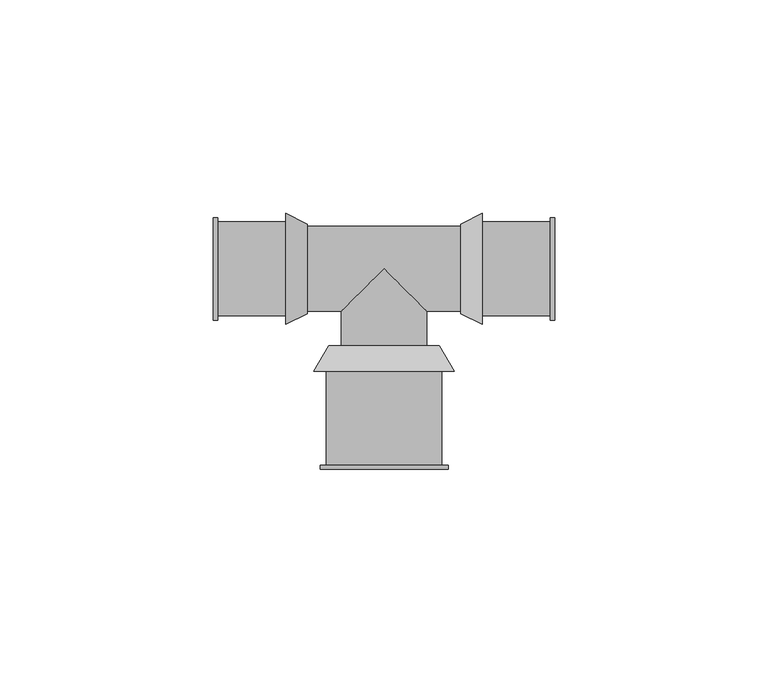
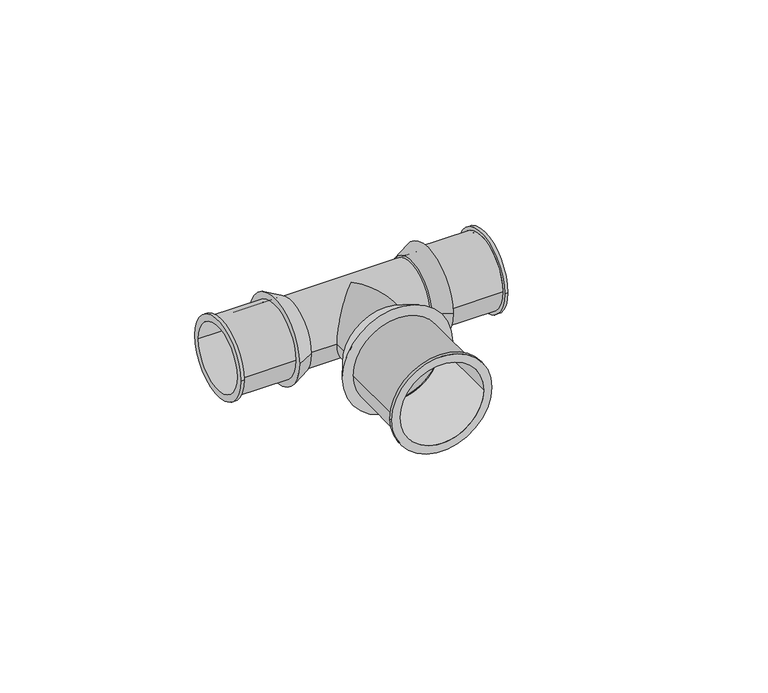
"""IFC4 building model written with IfcOpenShell, lengths in millimetres: pipe fitting geometry, SuperPipe_Tee_SPressPlus : SuperPipe_Tee_SPressPlus."""

from ifc_helpers import new_model, si_unit, point, frame, origin, origin_2d, place, context, project, spatial, polyline, circle_curve, ellipse_curve, trimmed, segment, composite_curve, outline, extrude, source, transform, mapped, element, save
from ifc_brep_helpers import plane_surface, cylinder_surface, revolved_surface, advanced_brep


def pipe_fitting_febb8c26(model_context):
    return source(origin(), model_context, "Body", "SolidModel", [
        advanced_brep(
        [(-40.0, -12.0, 0.0), (-40.0, 12.0, 0.0), (-40.0, -10.0, 0.0), (-40.0, 10.0, 0.0), (-23.0, -11.0, 0.0), (-23.0, 11.0, 0.0), (-23.0, -10.0, 0.0), (-23.0, 10.0, 0.0), (-39.0, -10.0, 0.0), (-39.0, 10.0, 0.0), (-39.0, 11.0, 0.0), (-39.0, -11.0, 0.0), (-39.0, -12.0, 0.0), (-39.0, 12.0, 0.0)],
        [
            (0, 1, circle_curve(frame((-40.0, 0.0, 0.0), z_axis=(-1.0, 0.0, 0.0), x_axis=(0.0, 1.0, 0.0)), 12.0)),
            (1, 0, circle_curve(frame((-40.0, 0.0, 0.0), z_axis=(-1.0, 0.0, 0.0), x_axis=(0.0, 1.0, 0.0)), 12.0)),
            (2, 3, circle_curve(frame((-40.0, 0.0, 0.0), z_axis=(1.0, 0.0, 0.0), x_axis=(0.0, 1.0, 0.0)), 10.0)),
            (3, 2, circle_curve(frame((-40.0, 0.0, 0.0), z_axis=(1.0, 0.0, 0.0), x_axis=(0.0, 1.0, 0.0)), 10.0)),
            (4, 5, circle_curve(frame((-23.0, 0.0, 0.0), z_axis=(1.0, 0.0, 0.0), x_axis=(0.0, 1.0, 0.0)), 11.0)),
            (5, 4, circle_curve(frame((-23.0, 0.0, 0.0), z_axis=(1.0, 0.0, 0.0), x_axis=(0.0, 1.0, 0.0)), 11.0)),
            (6, 7, circle_curve(frame((-23.0, 0.0, 0.0), z_axis=(-1.0, 0.0, 0.0), x_axis=(0.0, 1.0, 0.0)), 10.0)),
            (7, 6, circle_curve(frame((-23.0, 0.0, 0.0), z_axis=(-1.0, 0.0, 0.0), x_axis=(0.0, 1.0, 0.0)), 10.0)),
            (2, 8),
            (8, 6),
            (7, 9),
            (9, 3),
            (5, 10),
            (10, 11, circle_curve(frame((-39.0, 0.0, 0.0), z_axis=(1.0, 0.0, 0.0), x_axis=(0.0, 1.0, 0.0)), 11.0)),
            (11, 4),
            (11, 10, circle_curve(frame((-39.0, 0.0, 0.0), z_axis=(1.0, 0.0, 0.0), x_axis=(0.0, 1.0, 0.0)), 11.0)),
            (12, 13, circle_curve(frame((-39.0, 0.0, 0.0), z_axis=(1.0, 0.0, 0.0), x_axis=(0.0, 1.0, 0.0)), 12.0)),
            (13, 12, circle_curve(frame((-39.0, 0.0, 0.0), z_axis=(1.0, 0.0, 0.0), x_axis=(0.0, 1.0, 0.0)), 12.0)),
            (0, 12),
            (13, 1),
        ],
        [
            plane_surface(frame((-40.0, 0.0, 0.0), z_axis=(-1.0, 0.0, 0.0), x_axis=(0.0, 0.0, 1.0))),
            plane_surface(frame((-23.0, 0.0, 0.0), z_axis=(1.0, 0.0, 0.0), x_axis=(0.0, 0.0, 1.0))),
            revolved_surface(polyline([(-23.0, 10.0, 0.0), (-40.0, 10.0, 0.0)]), (-40.0, 0.0, 0.0), (1.0, 0.0, 0.0)),
            cylinder_surface(frame((-40.0, 0.0, 0.0), z_axis=(-1.0, 0.0, 0.0), x_axis=(0.0, 1.0, 0.0)), 11.0),
            plane_surface(frame((-39.0, 0.0, 0.0), z_axis=(1.0, 0.0, 0.0), x_axis=(0.0, 0.0, 1.0))),
            cylinder_surface(frame((-40.0, 0.0, 0.0), z_axis=(-1.0, 0.0, 0.0), x_axis=(0.0, 1.0, 0.0)), 12.0),
        ],
        [
            (0, [[1, 2], [3, 4]]),
            (1, [[5, 6], [7, 8]]),
            (2, [[-3, 9, 10, -8, 11, 12]]),
            (2, [[-4, -12, -11, -7, -10, -9]]),
            (3, [[-6, 13, 14, 15]]),
            (3, [[-5, -15, 16, -13]]),
            (4, [[17, 18], [-14, -16]]),
            (5, [[-1, 19, -18, 20]]),
            (5, [[-2, -20, -17, -19]]),
        ],
    ),
        advanced_brep(
        [(23.0, -11.0, 0.0), (23.0, 11.0, 0.0), (23.0, -10.0, 0.0), (23.0, 10.0, 0.0), (40.0, -12.0, 0.0), (40.0, 12.0, 0.0), (40.0, -10.0, 0.0), (40.0, 10.0, 0.0), (39.0, -11.0, 0.0), (39.0, 11.0, 0.0), (39.0, -10.0, 0.0), (39.0, 10.0, 0.0), (39.0, -12.0, 0.0), (39.0, 12.0, 0.0)],
        [
            (0, 1, circle_curve(frame((23.0, 0.0, 0.0), z_axis=(-1.0, 0.0, 0.0), x_axis=(0.0, 1.0, 0.0)), 11.0)),
            (1, 0, circle_curve(frame((23.0, 0.0, 0.0), z_axis=(-1.0, 0.0, 0.0), x_axis=(0.0, 1.0, 0.0)), 11.0)),
            (2, 3, circle_curve(frame((23.0, 0.0, 0.0), z_axis=(1.0, 0.0, 0.0), x_axis=(0.0, 1.0, 0.0)), 10.0)),
            (3, 2, circle_curve(frame((23.0, 0.0, 0.0), z_axis=(1.0, 0.0, 0.0), x_axis=(0.0, 1.0, 0.0)), 10.0)),
            (4, 5, circle_curve(frame((40.0, 0.0, 0.0), z_axis=(1.0, 0.0, 0.0), x_axis=(0.0, 1.0, 0.0)), 12.0)),
            (5, 4, circle_curve(frame((40.0, 0.0, 0.0), z_axis=(1.0, 0.0, 0.0), x_axis=(0.0, 1.0, 0.0)), 12.0)),
            (6, 7, circle_curve(frame((40.0, 0.0, 0.0), z_axis=(-1.0, 0.0, 0.0), x_axis=(0.0, 1.0, 0.0)), 10.0)),
            (7, 6, circle_curve(frame((40.0, 0.0, 0.0), z_axis=(-1.0, 0.0, 0.0), x_axis=(0.0, 1.0, 0.0)), 10.0)),
            (0, 8),
            (8, 9, circle_curve(frame((39.0, 0.0, 0.0), z_axis=(-1.0, 0.0, 0.0), x_axis=(0.0, 1.0, 0.0)), 11.0)),
            (9, 1),
            (9, 8, circle_curve(frame((39.0, 0.0, 0.0), z_axis=(-1.0, 0.0, 0.0), x_axis=(0.0, 1.0, 0.0)), 11.0)),
            (2, 10),
            (10, 6),
            (7, 11),
            (11, 3),
            (12, 13, circle_curve(frame((39.0, 0.0, 0.0), z_axis=(-1.0, 0.0, 0.0), x_axis=(0.0, 1.0, 0.0)), 12.0)),
            (13, 12, circle_curve(frame((39.0, 0.0, 0.0), z_axis=(-1.0, 0.0, 0.0), x_axis=(0.0, 1.0, 0.0)), 12.0)),
            (12, 4),
            (5, 13),
        ],
        [
            plane_surface(frame((23.0, 0.0, 0.0), z_axis=(-1.0, 0.0, 0.0), x_axis=(0.0, 0.0, 1.0))),
            plane_surface(frame((40.0, 0.0, 0.0), z_axis=(1.0, 0.0, 0.0), x_axis=(0.0, 0.0, 1.0))),
            cylinder_surface(frame((23.0, 0.0, 0.0), z_axis=(-1.0, 0.0, 0.0), x_axis=(0.0, 1.0, 0.0)), 11.0),
            revolved_surface(polyline([(40.0, 10.0, 0.0), (23.0, 10.0, 0.0)]), (23.0, 0.0, 0.0), (1.0, 0.0, 0.0)),
            plane_surface(frame((39.0, 0.0, 0.0), z_axis=(-1.0, 0.0, 0.0), x_axis=(0.0, 0.0, 1.0))),
            cylinder_surface(frame((39.0, 0.0, 0.0), z_axis=(-1.0, 0.0, 0.0), x_axis=(0.0, 1.0, 0.0)), 12.0),
        ],
        [
            (0, [[1, 2], [3, 4]]),
            (1, [[5, 6], [7, 8]]),
            (2, [[-1, 9, 10, 11]]),
            (2, [[-2, -11, 12, -9]]),
            (3, [[-3, 13, 14, -8, 15, 16]]),
            (3, [[-4, -16, -15, -7, -14, -13]]),
            (4, [[17, 18], [-10, -12]]),
            (5, [[-17, 19, -6, 20]]),
            (5, [[-18, -20, -5, -19]]),
        ],
    ),
        advanced_brep(
        [(-16.5, -24.0, 0.0), (16.5, -24.0, 0.0), (-12.5, -24.0, 0.0), (12.5, -24.0, 0.0), (-13.0, -18.0, 0.0), (13.0, -18.0, 0.0), (-12.5, -19.0, 0.0), (12.5, -19.0, 0.0)],
        [
            (0, 1, circle_curve(frame((0.0, -24.0, 0.0), z_axis=(0.0, -1.0, 0.0), x_axis=(-1.0, 0.0, 0.0)), 16.5)),
            (1, 0, circle_curve(frame((0.0, -24.0, 0.0), z_axis=(0.0, -1.0, 0.0), x_axis=(1.0, 0.0, 0.0)), 16.5)),
            (2, 3, circle_curve(frame((0.0, -24.0, 0.0), z_axis=(0.0, 1.0, 0.0), x_axis=(1.0, 0.0, 0.0)), 12.5)),
            (3, 2, circle_curve(frame((0.0, -24.0, 0.0), z_axis=(0.0, 1.0, 0.0), x_axis=(1.0, 0.0, 0.0)), 12.5)),
            (4, 5, circle_curve(frame((0.0, -18.0, 0.0), z_axis=(0.0, 1.0, 0.0), x_axis=(1.0, 0.0, 0.0)), 13.0)),
            (5, 4, circle_curve(frame((0.0, -18.0, 0.0), z_axis=(0.0, 1.0, 0.0), x_axis=(-1.0, 0.0, 0.0)), 13.0)),
            (0, 4),
            (5, 1),
            (6, 7, circle_curve(frame((0.0, -19.0, 0.0), z_axis=(0.0, -1.0, 0.0), x_axis=(1.0, 0.0, 0.0)), 12.5)),
            (7, 6, circle_curve(frame((0.0, -19.0, 0.0), z_axis=(0.0, -1.0, 0.0), x_axis=(1.0, 0.0, 0.0)), 12.5)),
            (7, 3),
            (2, 6),
        ],
        [
            plane_surface(frame((0.0, -24.0, 0.0), z_axis=(0.0, -1.0, 0.0), x_axis=(0.0, 0.0, -1.0))),
            plane_surface(frame((0.0, -18.0, 0.0), z_axis=(0.0, 1.0, 0.0), x_axis=(0.0, 0.0, -1.0))),
            revolved_surface(polyline([(13.000000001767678, -18.0, 0.0), (16.5, -24.0, 0.0)]), (0.0, 4.2857143, 0.0), (0.0, -1.0, 0.0)),
            revolved_surface(polyline([(-13.000000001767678, -18.0, 0.0), (-16.5, -24.0, 0.0)]), (0.0, 4.2857143, 0.0), (0.0, -1.0, 0.0)),
            plane_surface(frame((0.0, -19.0, 0.0), z_axis=(0.0, -1.0, 0.0), x_axis=(0.0, 0.0, 1.0))),
            revolved_surface(polyline([(12.5, -19.0, 0.0), (12.5, -24.0, 0.0)]), (0.0, -19.0, 0.0), (0.0, 1.0, 0.0)),
        ],
        [
            (0, [[1, 2], [3, 4]]),
            (1, [[5, 6]]),
            (2, [[-1, 7, -6, 8]]),
            (3, [[-2, -8, -5, -7]]),
            (4, [[9, 10]]),
            (5, [[-10, 11, -3, 12]]),
            (5, [[-9, -12, -4, -11]]),
        ],
    ),
        advanced_brep(
        [(23.0, -13.0, 0.0), (23.0, 13.0, 0.0), (23.0, 10.0, 0.0), (23.0, -10.0, 0.0), (18.0, -10.5, 0.0), (18.0, 10.5, 0.0), (19.0, -10.0, 0.0), (19.0, 10.0, 0.0)],
        [
            (0, 1, circle_curve(frame((23.0, 0.0, 0.0), z_axis=(1.0, 0.0, 0.0), x_axis=(0.0, -1.0, 0.0)), 13.0)),
            (1, 0, circle_curve(frame((23.0, 0.0, 0.0), z_axis=(1.0, 0.0, 0.0), x_axis=(0.0, 1.0, 0.0)), 13.0)),
            (2, 3, circle_curve(frame((23.0, 0.0, 0.0), z_axis=(-1.0, 0.0, 0.0), x_axis=(0.0, 1.0, 0.0)), 10.0)),
            (3, 2, circle_curve(frame((23.0, 0.0, 0.0), z_axis=(-1.0, 0.0, 0.0), x_axis=(0.0, 1.0, 0.0)), 10.0)),
            (4, 5, circle_curve(frame((18.0, 0.0, 0.0), z_axis=(-1.0, 0.0, 0.0), x_axis=(0.0, 1.0, 0.0)), 10.5)),
            (5, 4, circle_curve(frame((18.0, 0.0, 0.0), z_axis=(-1.0, 0.0, 0.0), x_axis=(0.0, -1.0, 0.0)), 10.5)),
            (0, 4),
            (5, 1),
            (6, 7, circle_curve(frame((19.0, 0.0, 0.0), z_axis=(1.0, 0.0, 0.0), x_axis=(0.0, 1.0, 0.0)), 10.0)),
            (7, 6, circle_curve(frame((19.0, 0.0, 0.0), z_axis=(1.0, 0.0, 0.0), x_axis=(0.0, 1.0, 0.0)), 10.0)),
            (6, 3),
            (2, 7),
        ],
        [
            plane_surface(frame((23.0, 0.0, 0.0), z_axis=(1.0, 0.0, 0.0), x_axis=(0.0, 0.0, -1.0))),
            plane_surface(frame((18.0, 0.0, 0.0), z_axis=(-1.0, 0.0, 0.0), x_axis=(0.0, 0.0, -1.0))),
            revolved_surface(polyline([(18.0, 10.5, 0.0), (23.0, 13.0, 0.0)]), (-3.0, 0.0, 0.0), (1.0, 0.0, 0.0)),
            revolved_surface(polyline([(18.0, -10.5, 0.0), (23.0, -13.0, 0.0)]), (-3.0, 0.0, 0.0), (1.0, 0.0, 0.0)),
            plane_surface(frame((19.0, 10.0, 0.0), z_axis=(1.0, 0.0, 0.0), x_axis=(0.0, 0.0, -1.0))),
            revolved_surface(polyline([(23.0, 10.0, 0.0), (19.0, 10.0, 0.0)]), (19.0, 0.0, 0.0), (1.0, 0.0, 0.0)),
        ],
        [
            (0, [[1, 2], [3, 4]]),
            (1, [[5, 6]]),
            (2, [[-1, 7, -6, 8]]),
            (3, [[-2, -8, -5, -7]]),
            (4, [[9, 10]]),
            (5, [[-9, 11, -3, 12]]),
            (5, [[-10, -12, -4, -11]]),
        ],
    ),
        advanced_brep(
        [(-18.0, -10.5, 0.0), (-18.0, 10.5, 0.0), (-23.0, -13.0, 0.0), (-23.0, 13.0, 0.0), (-23.0, -10.0, 0.0), (-23.0, 10.0, 0.0), (-19.0, -10.0, 0.0), (-19.0, 10.0, 0.0)],
        [
            (0, 1, circle_curve(frame((-18.0, 0.0, 0.0), z_axis=(1.0, 0.0, 0.0), x_axis=(0.0, -1.0, 0.0)), 10.5)),
            (1, 0, circle_curve(frame((-18.0, 0.0, 0.0), z_axis=(1.0, 0.0, 0.0), x_axis=(0.0, 1.0, 0.0)), 10.5)),
            (2, 3, circle_curve(frame((-23.0, 0.0, 0.0), z_axis=(-1.0, 0.0, 0.0), x_axis=(0.0, 1.0, 0.0)), 13.0)),
            (3, 2, circle_curve(frame((-23.0, 0.0, 0.0), z_axis=(-1.0, 0.0, 0.0), x_axis=(0.0, -1.0, 0.0)), 13.0)),
            (4, 5, circle_curve(frame((-23.0, 0.0, 0.0), z_axis=(1.0, 0.0, 0.0), x_axis=(0.0, 1.0, 0.0)), 10.0)),
            (5, 4, circle_curve(frame((-23.0, 0.0, 0.0), z_axis=(1.0, 0.0, 0.0), x_axis=(0.0, 1.0, 0.0)), 10.0)),
            (0, 2),
            (3, 1),
            (6, 7, circle_curve(frame((-19.0, 0.0, 0.0), z_axis=(-1.0, 0.0, 0.0), x_axis=(0.0, 1.0, 0.0)), 10.0)),
            (7, 6, circle_curve(frame((-19.0, 0.0, 0.0), z_axis=(-1.0, 0.0, 0.0), x_axis=(0.0, 1.0, 0.0)), 10.0)),
            (7, 5),
            (4, 6),
        ],
        [
            plane_surface(frame((-18.0, 0.0, 0.0), z_axis=(1.0, 0.0, 0.0), x_axis=(0.0, 0.0, -1.0))),
            plane_surface(frame((-23.0, 0.0, 0.0), z_axis=(-1.0, 0.0, 0.0), x_axis=(0.0, 0.0, -1.0))),
            revolved_surface(polyline([(-18.0, -10.5, 0.0), (-23.0, -13.0, 0.0)]), (3.0, 0.0, 0.0), (-1.0, 0.0, 0.0)),
            revolved_surface(polyline([(-18.0, 10.5, 0.0), (-23.0, 13.0, 0.0)]), (3.0, 0.0, 0.0), (-1.0, 0.0, 0.0)),
            plane_surface(frame((-19.0, 10.0, 0.0), z_axis=(-1.0, 0.0, 0.0), x_axis=(0.0, 0.0, 1.0))),
            revolved_surface(polyline([(-19.0, 10.0, 0.0), (-23.0, 10.0, 0.0)]), (-23.0, 0.0, 0.0), (1.0, 0.0, 0.0)),
        ],
        [
            (0, [[1, 2]]),
            (1, [[3, 4], [5, 6]]),
            (2, [[-1, 7, -4, 8]]),
            (3, [[-2, -8, -3, -7]]),
            (4, [[9, 10]]),
            (5, [[-10, 11, -5, 12]]),
            (5, [[-9, -12, -6, -11]]),
        ],
    ),
        advanced_brep(
        [(-10.0, -18.0, 0.0), (10.0, -18.0, 0.0), (10.0, -10.0, 0.0), (0.0, 0.0, 10.0), (-10.0, -10.0, 0.0), (0.0, 0.0, -10.0)],
        [
            (0, 1, circle_curve(frame((0.0, -18.0, 0.0), z_axis=(0.0, -1.0, 0.0), x_axis=(1.0, 0.0, 0.0)), 10.0)),
            (1, 0, circle_curve(frame((0.0, -18.0, 0.0), z_axis=(0.0, -1.0, 0.0), x_axis=(1.0, 0.0, 0.0)), 10.0)),
            (1, 2),
            (2, 3, ellipse_curve(frame((0.0, 0.0, 0.0), z_axis=(-0.7071067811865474, -0.7071067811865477, 0.0), x_axis=(-0.7071067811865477, 0.7071067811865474, 0.0)), 14.1421356, 10.0)),
            (3, 4, ellipse_curve(frame((0.0, 0.0, 0.0), z_axis=(0.7071067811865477, -0.7071067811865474, 0.0), x_axis=(0.7071067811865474, 0.7071067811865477, 0.0)), 14.1421356, 10.0)),
            (4, 0),
            (4, 5, ellipse_curve(frame((0.0, 0.0, 0.0), z_axis=(0.7071067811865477, -0.7071067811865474, 0.0), x_axis=(0.7071067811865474, 0.7071067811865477, 0.0)), 14.1421356, 10.0)),
            (5, 2, ellipse_curve(frame((0.0, 0.0, 0.0), z_axis=(-0.7071067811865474, -0.7071067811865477, 0.0), x_axis=(-0.7071067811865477, 0.7071067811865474, 0.0)), 14.1421356, 10.0)),
            (2, 4),
        ],
        [
            plane_surface(frame((0.0, -18.0, 0.0), z_axis=(0.0, -1.0, 0.0), x_axis=(0.0, 0.0, 1.0))),
            cylinder_surface(frame((0.0, 0.0, 0.0), z_axis=(0.0, 1.0, 0.0), x_axis=(1.0, 0.0, 0.0)), 10.0),
            revolved_surface(polyline([(-10.0, 10.0, 0.0), (10.0, 10.0, 0.0)]), (-96.8358145, 0.0, 0.0), (-1.0, 0.0, 0.0)),
        ],
        [
            (0, [[1, 2]]),
            (1, [[-2, 3, 4, 5, 6]]),
            (1, [[-1, -6, 7, 8, -3]]),
            (2, [[9, -5, -4]]),
            (2, [[-9, -8, -7]]),
        ],
    ),
        advanced_brep(
        [(-13.5, -24.0, 0.0), (13.5, -24.0, 0.0), (-12.5, -24.0, 0.0), (12.5, -24.0, 0.0), (-15.0, -47.0, 0.0), (15.0, -47.0, 0.0), (-12.5, -47.0, 0.0), (12.5, -47.0, 0.0), (-13.5, -46.0, 0.0), (13.5, -46.0, 0.0), (-15.0, -46.0, 0.0), (15.0, -46.0, 0.0)],
        [
            (0, 1, circle_curve(frame((0.0, -24.0, 0.0), z_axis=(0.0, 1.0, 0.0), x_axis=(1.0, 0.0, 0.0)), 13.5)),
            (1, 0, circle_curve(frame((0.0, -24.0, 0.0), z_axis=(0.0, 1.0, 0.0), x_axis=(1.0, 0.0, 0.0)), 13.5)),
            (2, 3, circle_curve(frame((0.0, -24.0, 0.0), z_axis=(0.0, -1.0, 0.0), x_axis=(1.0, 0.0, 0.0)), 12.5)),
            (3, 2, circle_curve(frame((0.0, -24.0, 0.0), z_axis=(0.0, -1.0, 0.0), x_axis=(1.0, 0.0, 0.0)), 12.5)),
            (4, 5, circle_curve(frame((0.0, -47.0, 0.0), z_axis=(0.0, -1.0, 0.0), x_axis=(1.0, 0.0, 0.0)), 15.0)),
            (5, 4, circle_curve(frame((0.0, -47.0, 0.0), z_axis=(0.0, -1.0, 0.0), x_axis=(1.0, 0.0, 0.0)), 15.0)),
            (6, 7, circle_curve(frame((0.0, -47.0, 0.0), z_axis=(0.0, 1.0, 0.0), x_axis=(1.0, 0.0, 0.0)), 12.5)),
            (7, 6, circle_curve(frame((0.0, -47.0, 0.0), z_axis=(0.0, 1.0, 0.0), x_axis=(1.0, 0.0, 0.0)), 12.5)),
            (2, 6),
            (7, 3),
            (0, 8),
            (8, 9, circle_curve(frame((0.0, -46.0, 0.0), z_axis=(0.0, 1.0, 0.0), x_axis=(1.0, 0.0, 0.0)), 13.5)),
            (9, 1),
            (9, 8, circle_curve(frame((0.0, -46.0, 0.0), z_axis=(0.0, 1.0, 0.0), x_axis=(1.0, 0.0, 0.0)), 13.5)),
            (10, 11, circle_curve(frame((0.0, -46.0, 0.0), z_axis=(0.0, 1.0, 0.0), x_axis=(1.0, 0.0, 0.0)), 15.0)),
            (11, 10, circle_curve(frame((0.0, -46.0, 0.0), z_axis=(0.0, 1.0, 0.0), x_axis=(1.0, 0.0, 0.0)), 15.0)),
            (10, 4),
            (5, 11),
        ],
        [
            plane_surface(frame((0.0, -24.0, 0.0), z_axis=(0.0, 1.0, 0.0), x_axis=(0.0, 0.0, 1.0))),
            plane_surface(frame((0.0, -47.0, 0.0), z_axis=(0.0, -1.0, 0.0), x_axis=(0.0, 0.0, 1.0))),
            revolved_surface(polyline([(12.5, -47.0, 0.0), (12.5, -24.0, 0.0)]), (0.0, -24.0, 0.0), (0.0, -1.0, 0.0)),
            cylinder_surface(frame((0.0, -24.0, 0.0), z_axis=(0.0, 1.0, 0.0), x_axis=(1.0, 0.0, 0.0)), 13.5),
            plane_surface(frame((0.0, -46.0, 0.0), z_axis=(0.0, 1.0, 0.0), x_axis=(0.0, 0.0, 1.0))),
            cylinder_surface(frame((0.0, -46.0, 0.0), z_axis=(0.0, 1.0, 0.0), x_axis=(1.0, 0.0, 0.0)), 15.0),
        ],
        [
            (0, [[1, 2], [3, 4]]),
            (1, [[5, 6], [7, 8]]),
            (2, [[-3, 9, -8, 10]]),
            (2, [[-4, -10, -7, -9]]),
            (3, [[-1, 11, 12, 13]]),
            (3, [[-2, -13, 14, -11]]),
            (4, [[15, 16], [-12, -14]]),
            (5, [[-15, 17, -6, 18]]),
            (5, [[-16, -18, -5, -17]]),
        ],
    ),
        extrude(outline(composite_curve([segment(trimmed(circle_curve(origin_2d(), 10.0), [point((-10.0, 0.0))], [point((10.0, 0.0))], False, "CARTESIAN"), True, "CONTINUOUS"), segment(trimmed(circle_curve(origin_2d(), 10.0), [point((10.0, 0.0))], [point((-10.0, 0.0))], False, "CARTESIAN"), True, "CONTINUOUS")], self_intersect=False)), frame((-18.0, 0.0, 0.0), z_axis=(1.0, 0.0, 0.0), x_axis=(0.0, 1.0, 0.0)), (0.0, 0.0, 1.0), 36.0),
    ])


if __name__ == "__main__":
    model = new_model("IFC4")
    model_context = context("Model", 3, world=origin())
    ifc_project = project(units=[si_unit("LENGTHUNIT", "METRE", prefix="MILLI")], contexts=[model_context])
    site = spatial("IfcSite", under=ifc_project)
    building = spatial("IfcBuilding", under=site)
    placement = place(None, origin())
    pipe_fitting_shape = pipe_fitting_febb8c26(model_context)
    element("IfcPipeFitting", 1, ObjectType="SuperPipe_Tee_SPressPlus : SuperPipe_Tee_SPressPlus", at=placement, inside=building, context=model_context, shape_type="MappedRepresentation", body=[
        mapped(pipe_fitting_shape, transform((0.0, 0.0, 0.0), x_axis=(1.0, 0.0, 0.0), y_axis=(0.0, 1.0, 0.0), z_axis=(0.0, 0.0, 1.0))),
    ])
    save(model, "model.ifc")
